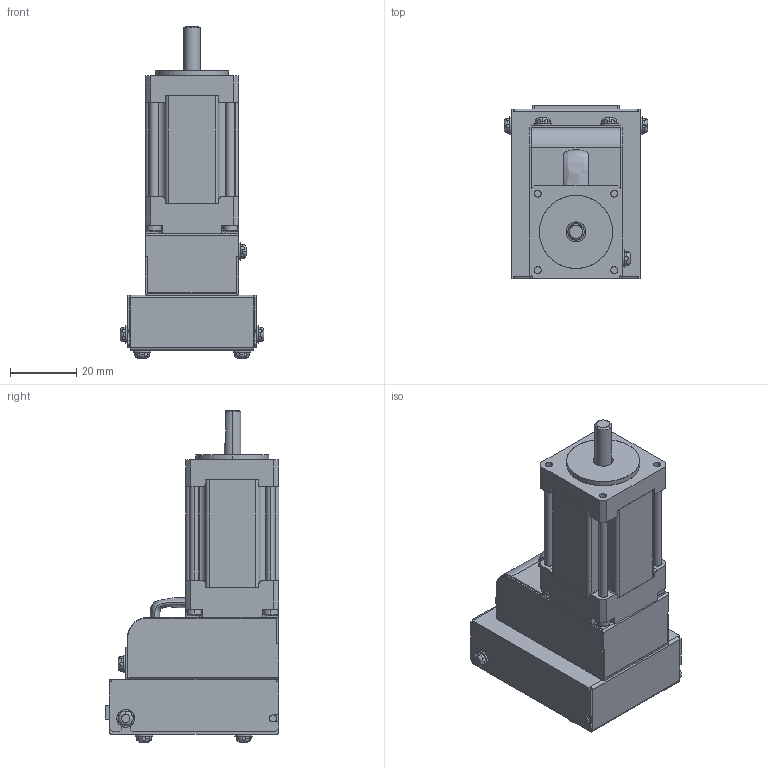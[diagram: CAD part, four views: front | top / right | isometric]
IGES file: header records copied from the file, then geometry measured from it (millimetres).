
Start section: SolidWorks IGES file using analytic representation for surfaces
Global section: file name: C:\Users\render\Documents\CAD Files\CM1 Series CAD\CM1-11L\CM1-X-11L30.IGS; native system: SolidWorks 2009; preprocessor: SolidWorks 2009; author: render; date: 100514.154117; units: millimetre
Bounding box: 43.2 x 52.3 x 99.9 mm (x, y, z)
Surface area: 34512.8 mm2 (no closed solid volume)
Topology: 0 solids, 0 shells, 851 faces, 7926 edges, 7926 vertices
Faces by surface type: bspline 603, revolution 248
